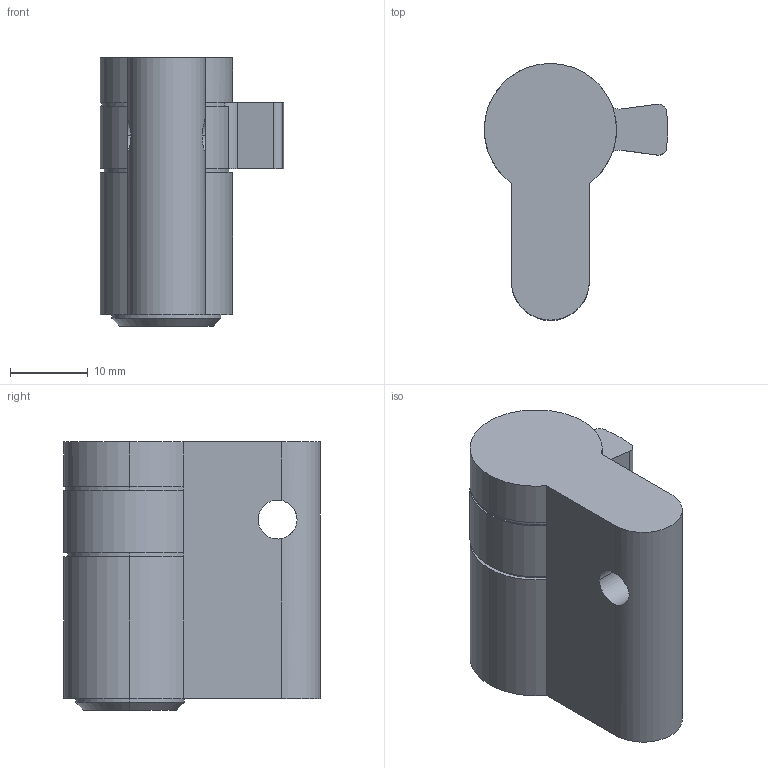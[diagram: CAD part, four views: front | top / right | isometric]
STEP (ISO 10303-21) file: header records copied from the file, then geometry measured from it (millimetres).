
FILE_DESCRIPTION (( 'STEP AP214' ), '1' );
FILE_NAME ('TPL-H-EU-005-L 29Oct2024.STEP', '2024-10-29T22:08:59', ( '' ), ( '' ), 'SwSTEP 2.0', 'SolidWorks 2023', '' );
FILE_SCHEMA (( 'AUTOMOTIVE_DESIGN' ));
Length unit declared in the file: millimetre
Products named in the file (1): TPL-H-EU-005-L 29Oct2024
Bounding box: 23.58 x 33 x 34.5 mm (x, y, z)
Volume: 12595.5 mm3; surface area: 4390.3 mm2
Topology: 1 solids, 1 shells, 45 faces, 124 edges, 78 vertices
Faces by surface type: cylinder 26, plane 16, cone 3
Entity records: 1540 total; most frequent: CARTESIAN_POINT 318, DIRECTION 271, ORIENTED_EDGE 248, EDGE_CURVE 124, AXIS2_PLACEMENT_3D 107, VERTEX_POINT 78, CIRCLE 61, VECTOR 57
